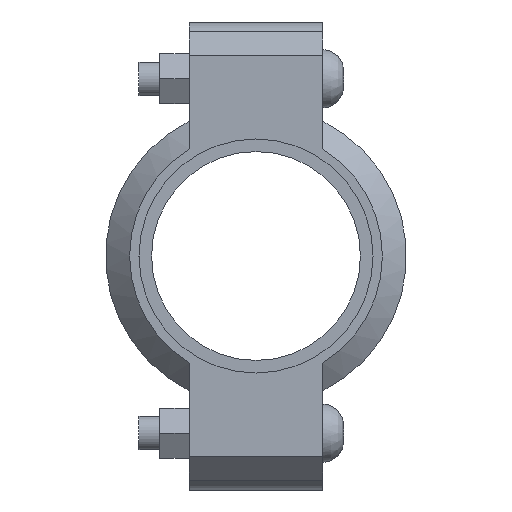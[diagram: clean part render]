
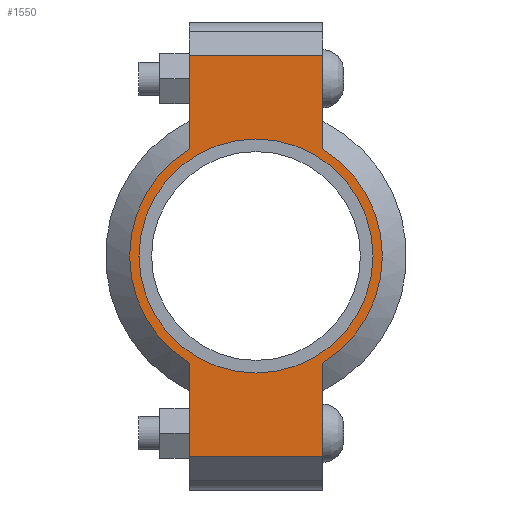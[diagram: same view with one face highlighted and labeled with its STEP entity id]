
A CAD part, left-side view. The second image highlights one B-rep face of the part: STEP entity #1550.
In plain terms, the highlighted planar face has unit normal (-1, 0, 0) as drawn and (0, 0, 1) by its records, which use the part's own axes.
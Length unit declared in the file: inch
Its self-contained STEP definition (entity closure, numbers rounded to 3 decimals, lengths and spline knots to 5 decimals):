
#174=LINE('',#2705,#267);
#182=LINE('',#2741,#275);
#189=LINE('',#2762,#282);
#198=LINE('',#2794,#291);
#199=LINE('',#2798,#292);
#200=LINE('',#2800,#293);
#267=VECTOR('',#2205,0.3937);
#275=VECTOR('',#2221,0.3937);
#282=VECTOR('',#2240,0.3937);
#291=VECTOR('',#2265,0.3937);
#292=VECTOR('',#2270,0.3937);
#293=VECTOR('',#2271,0.3937);
#349=FACE_BOUND('',#527,.T.);
#421=FACE_OUTER_BOUND('',#526,.T.);
#526=EDGE_LOOP('',(#1291,#1292,#1293,#1294,#1295,#1296,#1297,#1298));
#527=EDGE_LOOP('',(#1299));
#599=CIRCLE('',#1769,1.75);
#625=CIRCLE('',#1828,1.89);
#626=CIRCLE('',#1829,1.89);
#691=VERTEX_POINT('',#2521);
#734=VERTEX_POINT('',#2702);
#735=VERTEX_POINT('',#2704);
#746=VERTEX_POINT('',#2736);
#747=VERTEX_POINT('',#2740);
#754=VERTEX_POINT('',#2759);
#755=VERTEX_POINT('',#2761);
#765=VERTEX_POINT('',#2797);
#766=VERTEX_POINT('',#2799);
#847=EDGE_CURVE('',#691,#691,#599,.T.);
#908=EDGE_CURVE('',#735,#734,#174,.T.);
#922=EDGE_CURVE('',#747,#746,#182,.T.);
#932=EDGE_CURVE('',#755,#754,#189,.T.);
#947=EDGE_CURVE('',#747,#734,#198,.T.);
#948=EDGE_CURVE('',#746,#755,#625,.T.);
#949=EDGE_CURVE('',#765,#754,#199,.T.);
#950=EDGE_CURVE('',#765,#766,#200,.T.);
#951=EDGE_CURVE('',#766,#735,#626,.T.);
#1291=ORIENTED_EDGE('',*,*,#947,.F.);
#1292=ORIENTED_EDGE('',*,*,#922,.T.);
#1293=ORIENTED_EDGE('',*,*,#948,.T.);
#1294=ORIENTED_EDGE('',*,*,#932,.T.);
#1295=ORIENTED_EDGE('',*,*,#949,.F.);
#1296=ORIENTED_EDGE('',*,*,#950,.T.);
#1297=ORIENTED_EDGE('',*,*,#951,.T.);
#1298=ORIENTED_EDGE('',*,*,#908,.T.);
#1299=ORIENTED_EDGE('',*,*,#847,.T.);
#1392=PLANE('',#1827);
#1550=ADVANCED_FACE('',(#421,#349),#1392,.T.);
#1769=AXIS2_PLACEMENT_3D('',#2523,#2081,#2082);
#1827=AXIS2_PLACEMENT_3D('',#2795,#2266,#2267);
#1828=AXIS2_PLACEMENT_3D('',#2796,#2268,#2269);
#1829=AXIS2_PLACEMENT_3D('',#2801,#2272,#2273);
#2081=DIRECTION('center_axis',(0.,0.,-1.));
#2082=DIRECTION('ref_axis',(-1.,0.,0.));
#2205=DIRECTION('',(-1.,0.,0.));
#2221=DIRECTION('',(1.,0.,0.));
#2240=DIRECTION('',(1.,0.,0.));
#2265=DIRECTION('',(0.,1.,0.));
#2266=DIRECTION('center_axis',(0.,0.,1.));
#2267=DIRECTION('ref_axis',(1.,0.,0.));
#2268=DIRECTION('center_axis',(0.,0.,1.));
#2269=DIRECTION('ref_axis',(-1.,0.,0.));
#2270=DIRECTION('',(0.,-1.,0.));
#2271=DIRECTION('',(-1.,0.,0.));
#2272=DIRECTION('center_axis',(0.,0.,1.));
#2273=DIRECTION('ref_axis',(-1.,0.,0.));
#2521=CARTESIAN_POINT('',(1.75,0.,0.94));
#2523=CARTESIAN_POINT('Origin',(0.,0.,0.94));
#2702=CARTESIAN_POINT('',(-3.,1.,0.94));
#2704=CARTESIAN_POINT('',(-1.60378,1.,0.94));
#2705=CARTESIAN_POINT('',(-3.5,1.,0.94));
#2736=CARTESIAN_POINT('',(-1.60378,-1.,0.94));
#2740=CARTESIAN_POINT('',(-3.,-1.,0.94));
#2741=CARTESIAN_POINT('',(3.5,-1.,0.94));
#2759=CARTESIAN_POINT('',(3.,-1.,0.94));
#2761=CARTESIAN_POINT('',(1.60378,-1.,0.94));
#2762=CARTESIAN_POINT('',(3.5,-1.,0.94));
#2794=CARTESIAN_POINT('',(-3.,0.5,0.94));
#2795=CARTESIAN_POINT('Origin',(0.,0.,
0.94));
#2796=CARTESIAN_POINT('Origin',(0.,0.,0.94));
#2797=CARTESIAN_POINT('',(3.,1.,0.94));
#2798=CARTESIAN_POINT('',(3.,-0.5,0.94));
#2799=CARTESIAN_POINT('',(1.60378,1.,0.94));
#2800=CARTESIAN_POINT('',(-3.5,1.,0.94));
#2801=CARTESIAN_POINT('Origin',(0.,0.,0.94));
